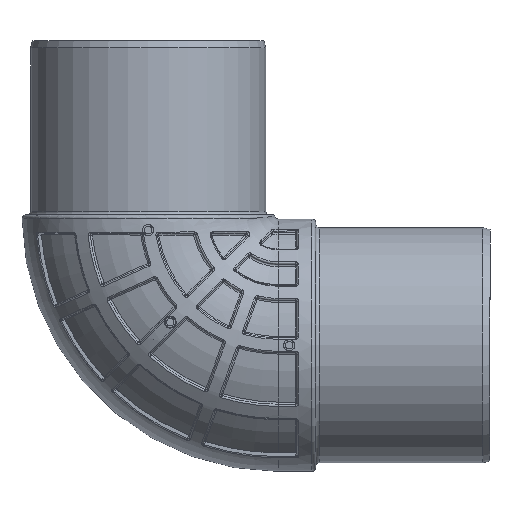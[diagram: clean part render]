
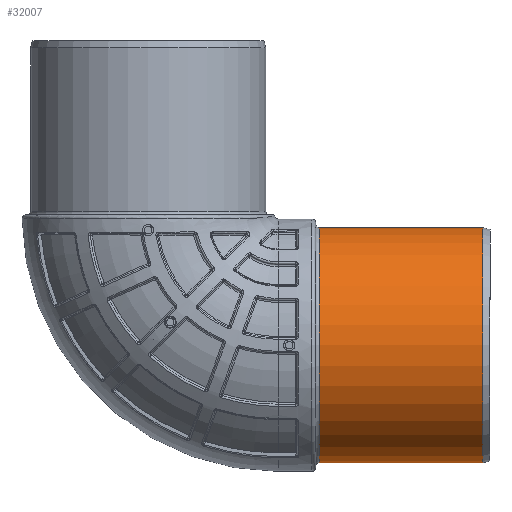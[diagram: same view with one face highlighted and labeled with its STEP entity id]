
A CAD part, front view. The second image highlights one B-rep face of the part: STEP entity #32007.
In plain terms, the highlighted cylindrical face has radius 31.7 mm (diameter 63.4 mm), a partial arc.
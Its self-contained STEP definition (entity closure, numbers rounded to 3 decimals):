
#348 = AXIS2_PLACEMENT_3D ( 'NONE', #9896, #9898, #9900 ) ;
#349 = AXIS2_PLACEMENT_3D ( 'NONE', #9903, #9904, #9906 ) ;
#3850 = DIRECTION ( 'NONE',  ( 0., 0., -1. ) ) ;
#3851 = CARTESIAN_POINT ( 'NONE',  ( 35.1, 0., 0. ) ) ;
#3852 = DIRECTION ( 'NONE',  ( 1., 0., 0. ) ) ;
#5014 = FACE_OUTER_BOUND ( 'NONE', #29834, .T. ) ;
#5021 = CYLINDRICAL_SURFACE ( 'NONE', #32461, 31.7 ) ;
#6094 = EDGE_CURVE ( 'NONE', #29983, #30003, #24996, .T. ) ;
#9896 = CARTESIAN_POINT ( 'NONE',  ( 46.1, 0., 0. ) ) ;
#9898 = DIRECTION ( 'NONE',  ( 1., 0., 0. ) ) ;
#9900 = DIRECTION ( 'NONE',  ( 0., 0., -1. ) ) ;
#9903 = CARTESIAN_POINT ( 'NONE',  ( 90.1, 0., 0. ) ) ;
#9904 = DIRECTION ( 'NONE',  ( -1., 0., 0. ) ) ;
#9906 = DIRECTION ( 'NONE',  ( 0., 0., 1. ) ) ;
#11048 = CARTESIAN_POINT ( 'NONE',  ( 46.1, 0., -31.7 ) ) ;
#11066 = CARTESIAN_POINT ( 'NONE',  ( 46.1, 0., 31.7 ) ) ;
#11067 = CARTESIAN_POINT ( 'NONE',  ( 90.1, 0., 31.7 ) ) ;
#11068 = CARTESIAN_POINT ( 'NONE',  ( 90.1, 0., -31.7 ) ) ;
#15758 = CIRCLE ( 'NONE', #348, 31.7 ) ;
#15760 = CIRCLE ( 'NONE', #349, 31.7 ) ;
#15875 = ORIENTED_EDGE ( 'NONE', *, *, #29026, .T. ) ;
#15903 = ORIENTED_EDGE ( 'NONE', *, *, #18963, .F. ) ;
#15905 = ORIENTED_EDGE ( 'NONE', *, *, #29025, .T. ) ;
#15907 = ORIENTED_EDGE ( 'NONE', *, *, #6094, .T. ) ;
#18417 = CARTESIAN_POINT ( 'NONE',  ( 35.1, 0., 31.7 ) ) ;
#18419 = DIRECTION ( 'NONE',  ( 1., 0., 0. ) ) ;
#18963 = EDGE_CURVE ( 'NONE', #30001, #30002, #25566, .T. ) ;
#24996 = LINE ( 'NONE', #31026, #24998 ) ;
#24998 = VECTOR ( 'NONE', #31016, 1000. ) ;
#25566 = LINE ( 'NONE', #18417, #25569 ) ;
#25569 = VECTOR ( 'NONE', #18419, 1000. ) ;
#29025 = EDGE_CURVE ( 'NONE', #30001, #29983, #15758, .T. ) ;
#29026 = EDGE_CURVE ( 'NONE', #30003, #30002, #15760, .T. ) ;
#29834 = EDGE_LOOP ( 'NONE', ( #15903, #15905, #15907, #15875 ) ) ;
#29983 = VERTEX_POINT ( 'NONE', #11048 ) ;
#30001 = VERTEX_POINT ( 'NONE', #11066 ) ;
#30002 = VERTEX_POINT ( 'NONE', #11067 ) ;
#30003 = VERTEX_POINT ( 'NONE', #11068 ) ;
#31016 = DIRECTION ( 'NONE',  ( 1., 0., 0. ) ) ;
#31026 = CARTESIAN_POINT ( 'NONE',  ( 35.1, 0., -31.7 ) ) ;
#32007 = ADVANCED_FACE ( 'NONE', ( #5014 ), #5021, .T. ) ;
#32461 = AXIS2_PLACEMENT_3D ( 'NONE', #3851, #3852, #3850 ) ;
